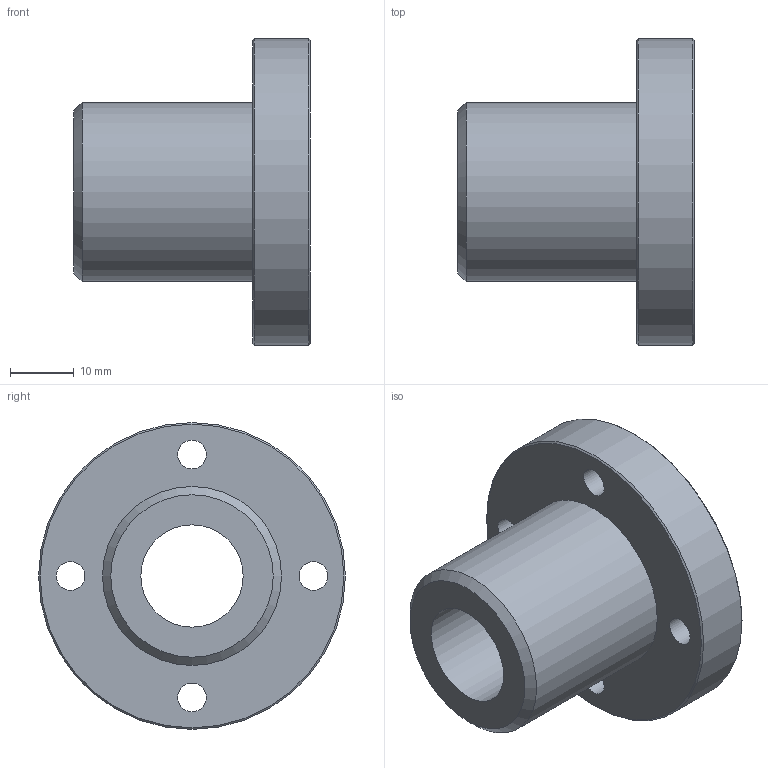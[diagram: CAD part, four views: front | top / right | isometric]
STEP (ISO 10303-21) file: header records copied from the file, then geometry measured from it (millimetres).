
FILE_DESCRIPTION(('STEP AP203'),'1');
FILE_NAME('//192.168.1.1/share/s-4 技術開発/s-4-4_CAD/s-4-4-3_見直し済み/PBC LINEAR修正済み/3D途中/SFPJ/SFPJR/SFPJR16.step','2022-03-24T06:31:58',(' '),(' '),'Spatial InterOp 3D',' ',' ');
FILE_SCHEMA(('CONFIG_CONTROL_DESIGN'));
Length unit declared in the file: millimetre
Products named in the file (1): 1
Bounding box: 37 x 48 x 48 mm (x, y, z)
Volume: 24969.8 mm3; surface area: 9319 mm2
Topology: 1 solids, 1 shells, 21 faces, 42 edges, 28 vertices
Faces by surface type: cylinder 11, plane 7, cone 3
Full cylindrical faces by diameter (mm): 4.5 x4, 7.5 x4, 16 x1, 28 x1, 48 x1
Entity records: 528 total; most frequent: DIRECTION 94, CARTESIAN_POINT 72, EDGE_LOOP 50, ORIENTED_EDGE 50, AXIS2_PLACEMENT_3D 47, FACE_OUTER_BOUND 32, EDGE_CURVE 25, VERTEX_POINT 25
